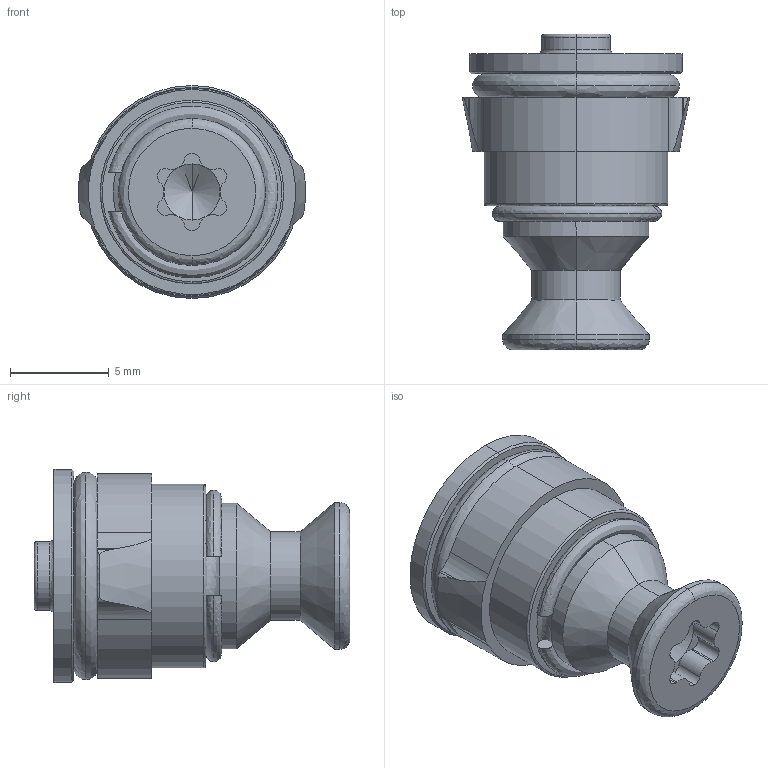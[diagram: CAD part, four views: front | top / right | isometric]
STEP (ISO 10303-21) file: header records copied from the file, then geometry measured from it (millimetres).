
FILE_DESCRIPTION (( 'STEP AP203' ), '1' );
FILE_NAME ('QS022-IAS-M3.STEP', '2016-07-11T10:13:07', ( '' ), ( '' ), 'SwSTEP 2.0', 'SolidWorks 2016', '' );
FILE_SCHEMA (( 'CONFIG_CONTROL_DESIGN' ));
Length unit declared in the file: millimetre
Products named in the file (1): QS022-IAS-M3
Bounding box: 11.51 x 16 x 10.8 mm (x, y, z)
Volume: 794.7 mm3; surface area: 1195.4 mm2
Topology: 6 solids, 6 shells, 165 faces, 441 edges, 256 vertices
Faces by surface type: cylinder 71, cone 49, bspline 26, plane 19
Entity records: 5487 total; most frequent: CARTESIAN_POINT 1640, ORIENTED_EDGE 808, DIRECTION 792, EDGE_CURVE 404, AXIS2_PLACEMENT_3D 340, VERTEX_POINT 256, CIRCLE 200, EDGE_LOOP 174
